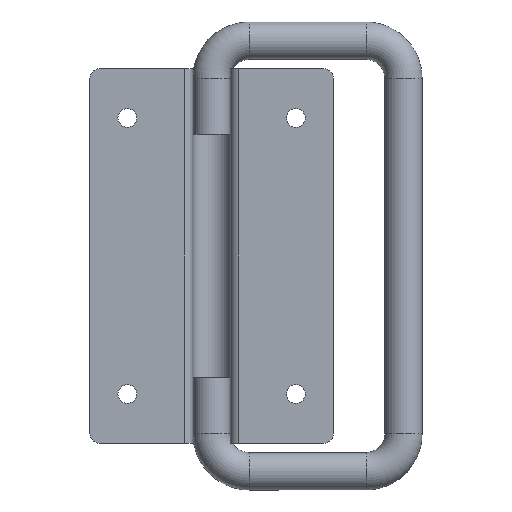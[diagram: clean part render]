
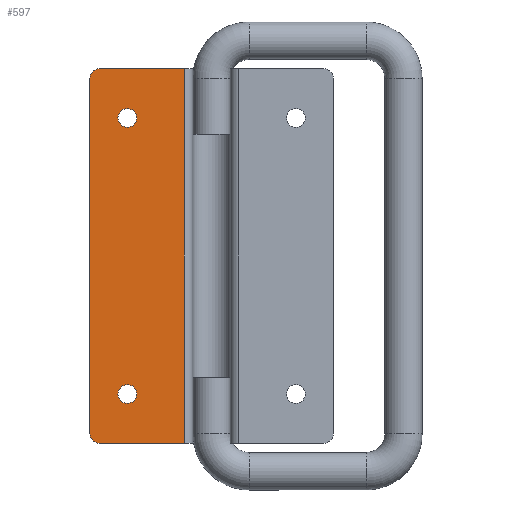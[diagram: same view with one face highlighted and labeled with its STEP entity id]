
A CAD part, front view. The second image highlights one B-rep face of the part: STEP entity #597.
In plain terms, the highlighted planar face has unit normal (0, -1, 0).
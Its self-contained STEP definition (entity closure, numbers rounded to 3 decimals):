
#35=FACE_BOUND('',#115,.T.);
#36=FACE_BOUND('',#116,.T.);
#56=PLANE('',#648);
#73=FACE_OUTER_BOUND('',#114,.T.);
#114=EDGE_LOOP('',(#451,#452,#453,#454,#455,#456));
#115=EDGE_LOOP('',(#457));
#116=EDGE_LOOP('',(#458));
#165=LINE('',#924,#205);
#178=LINE('',#970,#218);
#179=LINE('',#972,#219);
#180=LINE('',#973,#220);
#205=VECTOR('',#723,76.);
#218=VECTOR('',#766,18.177);
#219=VECTOR('',#767,80.);
#220=VECTOR('',#768,18.177);
#241=CIRCLE('',#631,2.);
#251=CIRCLE('',#647,2.);
#252=CIRCLE('',#649,2.);
#253=CIRCLE('',#650,2.);
#279=VERTEX_POINT('',#911);
#280=VERTEX_POINT('',#912);
#284=VERTEX_POINT('',#922);
#301=VERTEX_POINT('',#965);
#302=VERTEX_POINT('',#969);
#303=VERTEX_POINT('',#971);
#304=VERTEX_POINT('',#974);
#305=VERTEX_POINT('',#976);
#337=EDGE_CURVE('',#279,#280,#241,.T.);
#343=EDGE_CURVE('',#279,#284,#165,.T.);
#364=EDGE_CURVE('',#301,#284,#251,.T.);
#365=EDGE_CURVE('',#302,#301,#178,.T.);
#366=EDGE_CURVE('',#303,#302,#179,.T.);
#367=EDGE_CURVE('',#280,#303,#180,.T.);
#368=EDGE_CURVE('',#304,#304,#252,.T.);
#369=EDGE_CURVE('',#305,#305,#253,.T.);
#451=ORIENTED_EDGE('',*,*,#337,.F.);
#452=ORIENTED_EDGE('',*,*,#343,.T.);
#453=ORIENTED_EDGE('',*,*,#364,.F.);
#454=ORIENTED_EDGE('',*,*,#365,.F.);
#455=ORIENTED_EDGE('',*,*,#366,.F.);
#456=ORIENTED_EDGE('',*,*,#367,.F.);
#457=ORIENTED_EDGE('',*,*,#368,.T.);
#458=ORIENTED_EDGE('',*,*,#369,.T.);
#597=ADVANCED_FACE('',(#73,#35,#36),#56,.T.);
#631=AXIS2_PLACEMENT_3D('',#913,#713,#714);
#647=AXIS2_PLACEMENT_3D('',#967,#762,#763);
#648=AXIS2_PLACEMENT_3D('',#968,#764,#765);
#649=AXIS2_PLACEMENT_3D('',#975,#769,#770);
#650=AXIS2_PLACEMENT_3D('',#977,#771,#772);
#713=DIRECTION('center_axis',(0.,1.,0.));
#714=DIRECTION('ref_axis',(-0.707,0.,0.707));
#723=DIRECTION('',(0.,0.,-1.));
#762=DIRECTION('center_axis',(0.,1.,0.));
#763=DIRECTION('ref_axis',(-0.707,0.,-0.707));
#764=DIRECTION('center_axis',(0.,-1.,0.));
#765=DIRECTION('ref_axis',(-1.,0.,0.));
#766=DIRECTION('',(-1.,0.,0.));
#767=DIRECTION('',(0.,0.,-1.));
#768=DIRECTION('',(1.,0.,0.));
#769=DIRECTION('center_axis',(0.,1.,0.));
#770=DIRECTION('ref_axis',(1.,0.,0.));
#771=DIRECTION('center_axis',(0.,1.,0.));
#772=DIRECTION('ref_axis',(1.,0.,0.));
#911=CARTESIAN_POINT('',(-26.,0.,-2.));
#912=CARTESIAN_POINT('',(-24.,0.,0.));
#913=CARTESIAN_POINT('Origin',(-24.,0.,-2.));
#922=CARTESIAN_POINT('',(-26.,0.,-78.));
#924=CARTESIAN_POINT('',(-26.,0.,0.));
#965=CARTESIAN_POINT('',(-24.,0.,-80.));
#967=CARTESIAN_POINT('Origin',(-24.,0.,-78.));
#968=CARTESIAN_POINT('Origin',(-5.823,0.,
0.));
#969=CARTESIAN_POINT('',(-5.823,0.,-80.));
#970=CARTESIAN_POINT('',(-26.,0.,-80.));
#971=CARTESIAN_POINT('',(-5.823,0.,0.));
#972=CARTESIAN_POINT('',(-5.823,0.,0.));
#973=CARTESIAN_POINT('',(-26.,0.,0.));
#974=CARTESIAN_POINT('',(-16.,0.,-69.5));
#975=CARTESIAN_POINT('Origin',(-18.,0.,-69.5));
#976=CARTESIAN_POINT('',(-16.,0.,-10.5));
#977=CARTESIAN_POINT('Origin',(-18.,0.,-10.5));
